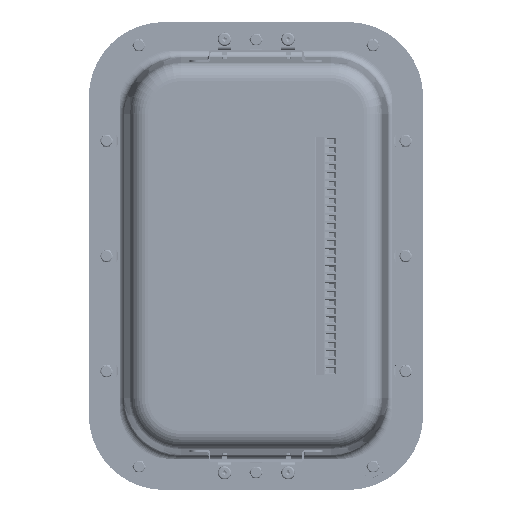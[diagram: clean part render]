
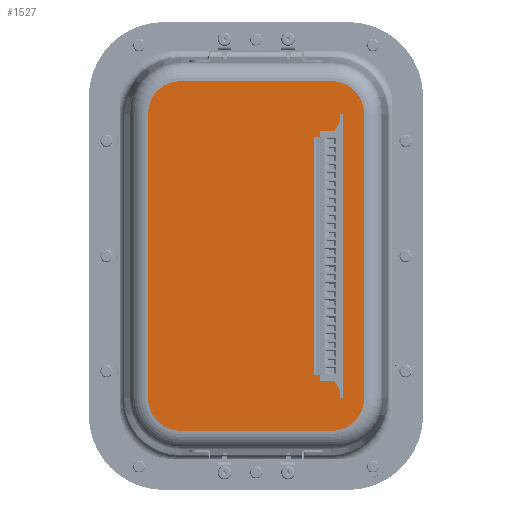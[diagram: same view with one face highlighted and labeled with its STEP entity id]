
A CAD part, left-side view. The second image highlights one B-rep face of the part: STEP entity #1527.
In plain terms, the highlighted planar face has unit normal (-1, 0, 0).
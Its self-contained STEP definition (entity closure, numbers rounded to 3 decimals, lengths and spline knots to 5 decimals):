
#1527=ADVANCED_FACE('2715:2055',(#5678,#5679),#5680,.T.);
#5678=FACE_OUTER_BOUND('',#27790,.T.);
#5679=FACE_BOUND('',#27791,.T.);
#5680=PLANE('',#27792);
#27790=EDGE_LOOP('',(#37763,#37764,#37765,#37766,#37767,#37768,#37769,#37770));
#27791=EDGE_LOOP('',(#37771,#37772,#37773,#37774,#37775,#37776,#37777,#37778,#37779,#37780));
#27792=AXIS2_PLACEMENT_3D('',#37781,#37782,#37783);
#37763=ORIENTED_EDGE('',*,*,#61960,.T.);
#37764=ORIENTED_EDGE('',*,*,#61961,.T.);
#37765=ORIENTED_EDGE('',*,*,#61962,.T.);
#37766=ORIENTED_EDGE('',*,*,#61963,.T.);
#37767=ORIENTED_EDGE('',*,*,#61964,.T.);
#37768=ORIENTED_EDGE('',*,*,#61965,.T.);
#37769=ORIENTED_EDGE('',*,*,#61966,.T.);
#37770=ORIENTED_EDGE('',*,*,#61967,.T.);
#37771=ORIENTED_EDGE('',*,*,#61968,.F.);
#37772=ORIENTED_EDGE('',*,*,#61969,.T.);
#37773=ORIENTED_EDGE('',*,*,#61970,.F.);
#37774=ORIENTED_EDGE('',*,*,#61971,.T.);
#37775=ORIENTED_EDGE('',*,*,#61972,.F.);
#37776=ORIENTED_EDGE('',*,*,#61973,.T.);
#37777=ORIENTED_EDGE('',*,*,#61974,.F.);
#37778=ORIENTED_EDGE('',*,*,#61975,.F.);
#37779=ORIENTED_EDGE('',*,*,#61976,.F.);
#37780=ORIENTED_EDGE('',*,*,#61977,.F.);
#37781=CARTESIAN_POINT('',(0.,-0.0965,0.1365));
#37782=DIRECTION('',(-1.0,0.,0.));
#37783=DIRECTION('',(0.,-1.0,0.0));
#61960=EDGE_CURVE('2715:2349',#71470,#71471,#71472,.T.);
#61961=EDGE_CURVE('2715:2352',#71471,#71473,#71474,.T.);
#61962=EDGE_CURVE('2715:2355',#71473,#71475,#71476,.T.);
#61963=EDGE_CURVE('2715:2358',#71475,#71477,#71478,.T.);
#61964=EDGE_CURVE('2715:2361',#71477,#71479,#71480,.T.);
#61965=EDGE_CURVE('2715:2364',#71479,#71481,#71482,.T.);
#61966=EDGE_CURVE('2715:2367',#71481,#71483,#71484,.T.);
#61967=EDGE_CURVE('2715:2370',#71483,#71470,#71485,.T.);
#61968=EDGE_CURVE('2715:2373',#71486,#71487,#71488,.T.);
#61969=EDGE_CURVE('2715:2376',#71486,#71489,#71490,.T.);
#61970=EDGE_CURVE('2715:2379',#71491,#71489,#71492,.T.);
#61971=EDGE_CURVE('2715:2382',#71491,#71493,#71494,.T.);
#61972=EDGE_CURVE('2715:2385',#71495,#71493,#71496,.T.);
#61973=EDGE_CURVE('2715:2388',#71495,#71497,#71498,.T.);
#61974=EDGE_CURVE('2715:2391',#71499,#71497,#71500,.T.);
#61975=EDGE_CURVE('2715:2394',#71501,#71499,#71502,.T.);
#61976=EDGE_CURVE('2715:2397',#71503,#71501,#71504,.T.);
#61977=EDGE_CURVE('2715:2400',#71487,#71503,#71505,.T.);
#71470=VERTEX_POINT('NONE',#88956);
#71471=VERTEX_POINT('NONE',#88957);
#71472=CIRCLE('',#88958,0.01951);
#71473=VERTEX_POINT('NONE',#88959);
#71474=LINE('',#88960,#88961);
#71475=VERTEX_POINT('NONE',#88962);
#71476=CIRCLE('',#88963,0.01951);
#71477=VERTEX_POINT('NONE',#88964);
#71478=LINE('',#88965,#88966);
#71479=VERTEX_POINT('NONE',#88967);
#71480=CIRCLE('',#88968,0.01951);
#71481=VERTEX_POINT('NONE',#88969);
#71482=LINE('',#88970,#88971);
#71483=VERTEX_POINT('NONE',#88972);
#71484=CIRCLE('',#88973,0.01951);
#71485=LINE('',#88974,#88975);
#71486=VERTEX_POINT('NONE',#88976);
#71487=VERTEX_POINT('NONE',#88977);
#71488=LINE('',#88978,#88979);
#71489=VERTEX_POINT('NONE',#88980);
#71490=LINE('',#88981,#88982);
#71491=VERTEX_POINT('NONE',#88983);
#71492=LINE('',#88984,#88985);
#71493=VERTEX_POINT('NONE',#88986);
#71494=LINE('',#88987,#88988);
#71495=VERTEX_POINT('NONE',#88989);
#71496=LINE('',#88990,#88991);
#71497=VERTEX_POINT('NONE',#88992);
#71498=LINE('',#88993,#88994);
#71499=VERTEX_POINT('NONE',#88995);
#71500=LINE('',#88996,#88997);
#71501=VERTEX_POINT('NONE',#88998);
#71502=LINE('',#88999,#89000);
#71503=VERTEX_POINT('NONE',#89001);
#71504=LINE('',#89002,#89003);
#71505=LINE('',#89004,#89005);
#88956=CARTESIAN_POINT('',(0.,-0.06463,0.08511));
#88957=CARTESIAN_POINT('',(0.,-0.04511,0.10463));
#88958=AXIS2_PLACEMENT_3D('',#109808,#109809,#109810);
#88959=CARTESIAN_POINT('',(0.,0.04512,0.10463));
#88960=CARTESIAN_POINT('',(0.,-0.0965,0.10463));
#88961=VECTOR('',#109811,1.0);
#88962=CARTESIAN_POINT('',(0.0,0.06463,0.08511));
#88963=AXIS2_PLACEMENT_3D('',#109812,#109813,#109814);
#88964=CARTESIAN_POINT('',(0.,0.06463,-0.08512));
#88965=CARTESIAN_POINT('',(0.,0.06463,0.1365));
#88966=VECTOR('',#109815,1.0);
#88967=CARTESIAN_POINT('',(0.,0.04512,-0.10463));
#88968=AXIS2_PLACEMENT_3D('',#109816,#109817,#109818);
#88969=CARTESIAN_POINT('',(0.,-0.04511,-0.10463));
#88970=CARTESIAN_POINT('',(0.0,-0.0965,-0.10463));
#88971=VECTOR('',#109819,1.0);
#88972=CARTESIAN_POINT('',(0.0,-0.06463,-0.08512));
#88973=AXIS2_PLACEMENT_3D('',#109820,#109821,#109822);
#88974=CARTESIAN_POINT('',(0.,-0.06463,0.1365));
#88975=VECTOR('',#109823,1.0);
#88976=CARTESIAN_POINT('',(0.,-0.05,-0.08));
#88977=CARTESIAN_POINT('',(0.,-0.05,-0.085));
#88978=CARTESIAN_POINT('',(0.,-0.05,0.));
#88979=VECTOR('',#109824,1.0);
#88980=CARTESIAN_POINT('',(0.,-0.04711,-0.075));
#88981=CARTESIAN_POINT('',(0.,0.03212,0.06224));
#88982=VECTOR('',#109825,1.);
#88983=CARTESIAN_POINT('',(0.,-0.038,-0.075));
#88984=CARTESIAN_POINT('',(0.,0.19145,-0.075));
#88985=VECTOR('',#109826,1.0);
#88986=CARTESIAN_POINT('',(0.,-0.038,0.075));
#88987=CARTESIAN_POINT('',(0.,-0.038,0.));
#88988=VECTOR('',#109827,1.0);
#88989=CARTESIAN_POINT('',(0.,-0.04711,0.075));
#88990=CARTESIAN_POINT('',(0.,0.19145,0.075));
#88991=VECTOR('',#109828,1.0);
#88992=CARTESIAN_POINT('',(0.,-0.05,0.08));
#88993=CARTESIAN_POINT('',(0.,-0.08609,0.14251));
#88994=VECTOR('',#109829,1.0);
#88995=CARTESIAN_POINT('',(0.,-0.05,0.085));
#88996=CARTESIAN_POINT('',(0.,-0.05,0.));
#88997=VECTOR('',#109830,1.0);
#88998=CARTESIAN_POINT('',(0.,-0.052,0.085));
#88999=CARTESIAN_POINT('',(0.,0.19145,0.085));
#89000=VECTOR('',#109831,1.0);
#89001=CARTESIAN_POINT('',(0.,-0.052,-0.085));
#89002=CARTESIAN_POINT('',(0.,-0.052,0.));
#89003=VECTOR('',#109832,1.0);
#89004=CARTESIAN_POINT('',(0.,0.19145,-0.085));
#89005=VECTOR('',#109833,1.0);
#109808=CARTESIAN_POINT('',(0.,-0.04511,0.08511));
#109809=DIRECTION('',(-1.0,0.,0.));
#109810=DIRECTION('',(0.,-1.0,0.0));
#109811=DIRECTION('',(0.,1.0,0.));
#109812=CARTESIAN_POINT('',(0.,0.04512,0.08511));
#109813=DIRECTION('',(-1.0,0.,0.));
#109814=DIRECTION('',(0.,-1.0,0.0));
#109815=DIRECTION('',(0.,0.,-1.0));
#109816=CARTESIAN_POINT('',(0.,0.04512,-0.08512));
#109817=DIRECTION('',(-1.0,0.,0.));
#109818=DIRECTION('',(0.,-1.0,0.0));
#109819=DIRECTION('',(0.,-1.0,0.));
#109820=CARTESIAN_POINT('',(0.,-0.04511,-0.08512));
#109821=DIRECTION('',(-1.0,0.,0.));
#109822=DIRECTION('',(0.,-1.0,0.0));
#109823=DIRECTION('',(0.,0.,1.0));
#109824=DIRECTION('',(0.,0.,-1.0));
#109825=DIRECTION('',(0.,0.5,0.866));
#109826=DIRECTION('',(0.,-1.0,0.0));
#109827=DIRECTION('',(0.,0.,1.0));
#109828=DIRECTION('',(0.,1.0,0.0));
#109829=DIRECTION('',(0.,-0.5,0.866));
#109830=DIRECTION('',(0.,0.,-1.0));
#109831=DIRECTION('',(0.,1.0,0.));
#109832=DIRECTION('',(0.,0.,1.0));
#109833=DIRECTION('',(0.,-1.0,0.));
